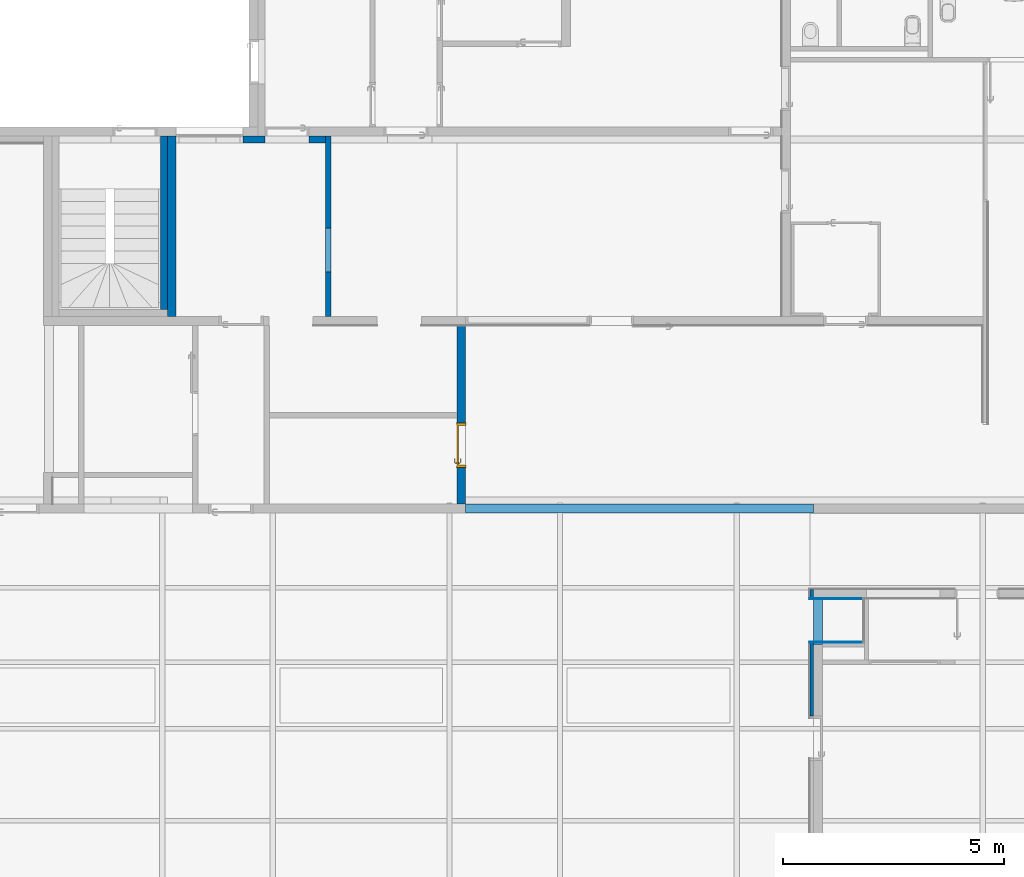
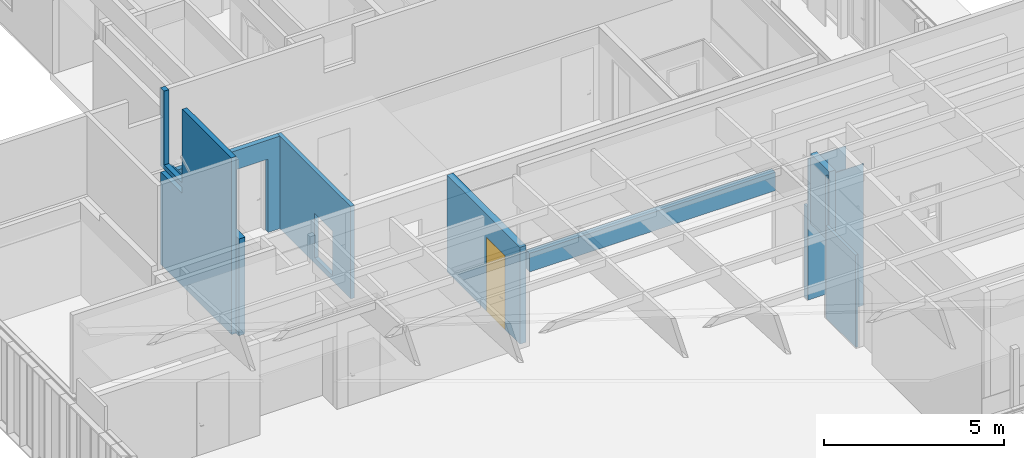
# One storey, part 84 of 240: 11 walls, 1 door, 5 openings.
"""IFC2X3 building model written with IfcOpenShell, lengths in centimetres."""

import ifcopenshell
import ifcopenshell.guid

model = None  # the IFC model being written
_history = None  # IfcOwnerHistory: only IFC2X3 demands one
_inside = {}  # id of a spatial element -> (the spatial element, [elements in it])
_under = {}  # id of a project, library or spatial element -> (it, [spatial elements below it])
_declared = {}  # id of a project -> (the project, [libraries it declares])
_typed = {}  # id of a type object -> (the type object, [elements of that type])
_made_of = {}  # id of a material, layer set ... -> (it, [elements and type objects made of it])


def new_model(schema):
    """Start an empty IFC model of exactly this schema.

    Asked for "IFC4X3", IfcOpenShell would pick the latest addendum, in which some entities
    have other attributes; the version numbers below select the first issue.
    IFC2X3 requires an IfcOwnerHistory on every rooted entity: one is made here for all.
    """
    global model, _history
    if schema == "IFC4X3":
        model = ifcopenshell.file(schema_version=(4, 3, 0, 0))
    else:
        model = ifcopenshell.file(schema=schema)
    _inside.clear()
    _under.clear()
    _declared.clear()
    _typed.clear()
    _made_of.clear()
    _history = None
    if model.schema == "IFC2X3":
        org = make("IfcOrganization", Name="unknown")
        user = make(
            "IfcPersonAndOrganization",
            ThePerson=make("IfcPerson", FamilyName="unknown"),
            TheOrganization=org,
        )
        app = make(
            "IfcApplication",
            ApplicationDeveloper=org,
            Version="unknown",
            ApplicationFullName="unknown",
            ApplicationIdentifier="unknown",
        )
        _history = make(
            "IfcOwnerHistory",
            OwningUser=user,
            OwningApplication=app,
            ChangeAction="ADDED",
            CreationDate=0,
        )
    return model


def make(cls, **values):
    """One entity of the class cls with the attributes given. An attribute that is None is left unset."""
    return model.create_entity(
        cls, **{name: value for name, value in values.items() if value is not None}
    )


def entity(cls, *values):
    """Any entity or typed value of the class cls, its attributes in the order of the schema. None: left unset."""
    e = model.create_entity(cls)
    for i, value in enumerate(values):
        if value is not None:
            e[i] = value
    return e


def rooted(cls, **values):
    """An entity with a GlobalId (a new one), such as an element, a storey or a relation."""
    return make(cls, GlobalId=ifcopenshell.guid.new(), OwnerHistory=_history, **values)


def si_unit(unit_type, name, prefix=None):
    """IfcSIUnit, for example si_unit("LENGTHUNIT", "METRE", prefix="MILLI")."""
    return make("IfcSIUnit", UnitType=unit_type, Prefix=prefix, Name=name)


def converted_unit(unit_type, name, factor, base, dimensions=None, offset=None):
    """IfcConversionBasedUnit, such as the inch: factor (a typed value) times the base unit."""
    return make(
        "IfcConversionBasedUnit"
        if offset is None
        else "IfcConversionBasedUnitWithOffset",
        ConversionOffset=offset,
        Dimensions=None
        if dimensions is None
        else entity("IfcDimensionalExponents", *dimensions),
        UnitType=unit_type,
        Name=name,
        ConversionFactor=make(
            "IfcMeasureWithUnit", ValueComponent=factor, UnitComponent=base
        ),
    )


def derived_unit(unit_type, elements):
    """IfcDerivedUnit: a product of units, each with its exponent."""
    return make(
        "IfcDerivedUnit",
        Elements=[
            make("IfcDerivedUnitElement", Unit=unit, Exponent=power)
            for unit, power in elements
        ],
        UnitType=unit_type,
    )


def assignment(units):
    """IfcUnitAssignment: the units of a project."""
    return None if units is None else make("IfcUnitAssignment", Units=units)


def point(xyz):
    """IfcCartesianPoint."""
    return None if xyz is None else make("IfcCartesianPoint", Coordinates=xyz)


def direction(xyz):
    """IfcDirection."""
    return None if xyz is None else make("IfcDirection", DirectionRatios=xyz)


def frame(location, z_axis=None, x_axis=None):
    """IfcAxis2Placement3D, a coordinate frame: its origin and axes. An axis left out is left unset."""
    return make(
        "IfcAxis2Placement3D",
        Location=point(location),
        Axis=direction(z_axis),
        RefDirection=direction(x_axis),
    )


def frame_2d(location, x_axis=None):
    """IfcAxis2Placement2D, a coordinate frame in the plane: its origin and x axis."""
    return make(
        "IfcAxis2Placement2D", Location=point(location), RefDirection=direction(x_axis)
    )


def origin():
    """The frame at (0, 0, 0) with its axes left unset."""
    return frame((0.0, 0.0, 0.0))


def place(relative_to, where):
    """IfcLocalPlacement: puts the frame where relative to a parent placement (None: the world)."""
    return make(
        "IfcLocalPlacement", PlacementRelTo=relative_to, RelativePlacement=where
    )


def context(
    kind, dimensions, precision=None, world=None, true_north=None, identifier=None
):
    """IfcGeometricRepresentationContext, for example the 3D "Model" context."""
    return make(
        "IfcGeometricRepresentationContext",
        ContextIdentifier=identifier,
        ContextType=kind,
        CoordinateSpaceDimension=dimensions,
        Precision=precision,
        WorldCoordinateSystem=world,
        TrueNorth=true_north,
    )


def subcontext(parent, identifier, kind, view, scale=None):
    """IfcGeometricRepresentationSubContext, for example "Body" below "Model"."""
    return make(
        "IfcGeometricRepresentationSubContext",
        ContextIdentifier=identifier,
        ContextType=kind,
        ParentContext=parent,
        TargetScale=scale,
        TargetView=view,
    )


def project(units=None, contexts=None):
    """IfcProject with its units and contexts."""
    return rooted(
        "IfcProject",
        Name="project",
        RepresentationContexts=contexts,
        UnitsInContext=assignment(units),
    )


def spatial(cls, under=None, at=None, **own):
    """A site, building, storey or space (cls), placed at a placement, below another one or the project."""
    s = rooted(cls, ObjectPlacement=at, **own)
    if under is not None:
        _under.setdefault(under.id(), (under, []))[1].append(s)
    return s


def polyline(points):
    """IfcPolyline through the points."""
    return make("IfcPolyline", Points=[point(p) for p in points])


def profile(cls, at=None, kind="AREA", **sizes):
    """A parametric profile (cls). Its sizes go by their IFC names, for example OverallWidth=200.0."""
    return make(cls, ProfileType=kind, Position=at, **sizes)


def rectangle(**sizes):
    """IfcRectangleProfileDef."""
    return profile("IfcRectangleProfileDef", **sizes)


def extrude(swept, where, along, depth):
    """IfcExtrudedAreaSolid: the profile swept, set in the frame where, extruded along a direction by depth."""
    return make(
        "IfcExtrudedAreaSolid",
        SweptArea=swept,
        Position=where,
        ExtrudedDirection=direction(along),
        Depth=depth,
    )


def clip(a, b, op="DIFFERENCE"):
    """IfcBooleanClippingResult: the solid a cut by the half space b."""
    return make(
        "IfcBooleanClippingResult", Operator=op, FirstOperand=a, SecondOperand=b
    )


def bounded_halfspace(plane, agree, where, boundary):
    """IfcPolygonalBoundedHalfSpace: a half space limited to a polygon's prism."""
    return make(
        "IfcPolygonalBoundedHalfSpace",
        BaseSurface=make("IfcPlane", Position=plane),
        AgreementFlag=agree,
        Position=where,
        PolygonalBoundary=boundary,
    )


def faces_of(points, faces, orient=None, outer=None):
    """IfcFace entities. A face is a list of loops; a loop is a list of indices into points, from 0.

    orient and outer hold one flag for each loop. By default every Orientation is true, the
    first loop of a face is its IfcFaceOuterBound and the others are IfcFaceBound.
    """
    made = []
    for i, loops in enumerate(faces):
        bounds = []
        for j, loop in enumerate(loops):
            is_outer = j == 0 if outer is None else outer[i][j]
            bounds.append(
                make(
                    "IfcFaceOuterBound" if is_outer else "IfcFaceBound",
                    Bound=make("IfcPolyLoop", Polygon=[points[k] for k in loop]),
                    Orientation=True if orient is None else orient[i][j],
                )
            )
        made.append(make("IfcFace", Bounds=bounds))
    return made


def faceted_brep(points, faces, orient=None, outer=None, voids=None):
    """IfcFacetedBrep: a solid bounded by flat faces; with voids (closed shells), ...WithVoids."""
    shared = [point(p) for p in points]
    hull = make("IfcClosedShell", CfsFaces=faces_of(shared, faces, orient, outer))
    if voids is None:
        return make("IfcFacetedBrep", Outer=hull)
    return make(
        "IfcFacetedBrepWithVoids",
        Outer=hull,
        Voids=[
            make(cls, CfsFaces=faces_of(shared, fs, o, b)) for cls, fs, o, b in voids
        ],
    )


def shape(context_of_items, identifier, shape_type, items):
    """IfcShapeRepresentation: the items that make up one representation, for example the "Body"."""
    return make(
        "IfcShapeRepresentation",
        ContextOfItems=context_of_items,
        RepresentationIdentifier=identifier,
        RepresentationType=shape_type,
        Items=items,
    )


def source(mapping_origin, context_of_items, identifier, shape_type, items):
    """IfcRepresentationMap: a shape defined once, which mapped items show again and again."""
    return make(
        "IfcRepresentationMap",
        MappingOrigin=mapping_origin,
        MappedRepresentation=shape(context_of_items, identifier, shape_type, items),
    )


def transform(
    local_origin,
    x_axis=None,
    y_axis=None,
    z_axis=None,
    scale=None,
    scale2=None,
    scale3=None,
    uniform=True,
):
    """IfcCartesianTransformationOperator3D, or its non-uniform kind. x_axis, y_axis, z_axis: its Axis1, 2, 3."""
    if uniform:
        return make(
            "IfcCartesianTransformationOperator3D",
            Axis1=direction(x_axis),
            Axis2=direction(y_axis),
            LocalOrigin=point(local_origin),
            Scale=scale,
            Axis3=direction(z_axis),
        )
    return make(
        "IfcCartesianTransformationOperator3DnonUniform",
        Axis1=direction(x_axis),
        Axis2=direction(y_axis),
        LocalOrigin=point(local_origin),
        Scale=scale,
        Axis3=direction(z_axis),
        Scale2=scale2,
        Scale3=scale3,
    )


def mapped(mapping_source, mapping_target):
    """IfcMappedItem: shows the shape of a source again, moved by a transform."""
    return make(
        "IfcMappedItem", MappingSource=mapping_source, MappingTarget=mapping_target
    )


def material(Name=None, Category=None):
    """IfcMaterial."""
    return make("IfcMaterial", Name=Name, Category=Category)


def material_list(materials):
    """IfcMaterialList."""
    return make("IfcMaterialList", Materials=materials)


def layer(
    of_material, thickness, ventilated=None, Name=None, Category=None, Priority=None
):
    """IfcMaterialLayer: one layer of a wall or slab, of a material (None: an air gap)."""
    return make(
        "IfcMaterialLayer",
        Material=of_material,
        LayerThickness=thickness,
        IsVentilated=ventilated,
        Name=Name,
        Category=Category,
        Priority=Priority,
    )


def layer_set(layers, Name=None):
    """IfcMaterialLayerSet."""
    return make("IfcMaterialLayerSet", MaterialLayers=layers, LayerSetName=Name)


def layer_usage(for_layer_set, set_direction, sense, offset, extent=None):
    """IfcMaterialLayerSetUsage: how a layer set lies in its element."""
    return make(
        "IfcMaterialLayerSetUsage",
        ForLayerSet=for_layer_set,
        LayerSetDirection=set_direction,
        DirectionSense=sense,
        OffsetFromReferenceLine=offset,
        ReferenceExtent=extent,
    )


def made_of(thing, what):
    """Note that an element or type object is made of a material, layer set ...; save() writes the relation."""
    if what is not None:
        _made_of.setdefault(what.id(), (what, []))[1].append(thing)
    return thing


def type_object(cls, material=None, **own):
    """A type object (cls), such as IfcWallType, which elements share."""
    return made_of(rooted(cls, **own), material)


def type_shapes(of_type, sources):
    """Give a type object the sources (RepresentationMaps) that its elements show as mapped items."""
    of_type.RepresentationMaps = sources


def element(
    cls,
    number,
    at=None,
    inside=None,
    cuts=None,
    type_object=None,
    material=None,
    context=None,
    identifier="Body",
    shape_type=None,
    held_by="IfcProductDefinitionShape",
    body=None,
    shapes=None,
    **own,
):
    """One element of the class cls, such as IfcWall. Its Tag is "e" and its number.

    at: its placement. inside: the storey or other place that contains it. cuts: it is an
    opening in that element (IfcRelVoidsElement). A single representation is given by context,
    identifier, shape_type and body (its items); several are given by shapes. held_by: the class
    of the entity that holds the representations. save() writes the other relations.
    """
    e = rooted(cls, Tag="e%d" % number, ObjectPlacement=at, **own)
    if body is not None:
        shapes = [shape(context, identifier, shape_type, body)]
    if shapes is not None:
        e.Representation = make(held_by, Representations=shapes)
    if inside is not None:
        _inside.setdefault(inside.id(), (inside, []))[1].append(e)
    if cuts is not None:
        rooted(
            "IfcRelVoidsElement", RelatingBuildingElement=cuts, RelatedOpeningElement=e
        )
    if type_object is not None:
        _typed.setdefault(type_object.id(), (type_object, []))[1].append(e)
    return made_of(e, material)


def fill(opening, filler):
    """IfcRelFillsElement: the door or window that sits in an opening."""
    return rooted(
        "IfcRelFillsElement",
        RelatingOpeningElement=opening,
        RelatedBuildingElement=filler,
    )


def aggregate(whole, parts):
    """IfcRelAggregates: a whole, such as a stair, and the parts it consists of."""
    return rooted("IfcRelAggregates", RelatingObject=whole, RelatedObjects=parts)


def save(model, path):
    """Write the relations noted so far, then the file.

    IfcRelAggregates (storeys below a building ...), IfcRelContainedInSpatialStructure (elements
    in a storey), IfcRelDefinesByType, IfcRelAssociatesMaterial and IfcRelDeclares: one each for
    every whole, place, type object, material and project.
    """
    for whole, parts in _under.values():
        aggregate(whole, parts)
    for where, things in _inside.values():
        rooted(
            "IfcRelContainedInSpatialStructure",
            RelatedElements=things,
            RelatingStructure=where,
        )
    for kind, things in _typed.values():
        rooted("IfcRelDefinesByType", RelatedObjects=things, RelatingType=kind)
    for what, things in _made_of.values():
        rooted("IfcRelAssociatesMaterial", RelatedObjects=things, RelatingMaterial=what)
    for by, libraries in _declared.values():
        rooted("IfcRelDeclares", RelatingContext=by, RelatedDefinitions=libraries)
    model.write(path)


model = new_model("IFC2X3")

# Units and contexts
model_context = context("Model", 3, precision=0.001, world=origin(), true_north=direction((6.12303176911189e-17, 1.0)))
body_context = subcontext(model_context, "Body", "Model", "MODEL_VIEW")
ifc_project = project(units=[si_unit("LENGTHUNIT", "METRE", prefix="CENTI"), si_unit("AREAUNIT", "SQUARE_METRE"), si_unit("VOLUMEUNIT", "CUBIC_METRE"), converted_unit("PLANEANGLEUNIT", "DEGREE", entity("IfcRatioMeasure", 0.0174532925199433), si_unit("PLANEANGLEUNIT", "RADIAN"), dimensions=[0, 0, 0, 0, 0, 0, 0]), si_unit("MASSUNIT", "GRAM", prefix="KILO"), derived_unit("MASSDENSITYUNIT", [(si_unit("MASSUNIT", "GRAM", prefix="KILO"), 1), (si_unit("LENGTHUNIT", "METRE"), -3)]), si_unit("TIMEUNIT", "SECOND"), si_unit("FREQUENCYUNIT", "HERTZ"), si_unit("THERMODYNAMICTEMPERATUREUNIT", "DEGREE_CELSIUS"), derived_unit("THERMALTRANSMITTANCEUNIT", [(si_unit("MASSUNIT", "GRAM", prefix="KILO"), 1), (si_unit("THERMODYNAMICTEMPERATUREUNIT", "KELVIN"), -1), (si_unit("TIMEUNIT", "SECOND"), -3)]), derived_unit("VOLUMETRICFLOWRATEUNIT", [(si_unit("LENGTHUNIT", "METRE"), 3), (si_unit("TIMEUNIT", "SECOND"), -1)]), si_unit("ELECTRICCURRENTUNIT", "AMPERE"), si_unit("ELECTRICVOLTAGEUNIT", "VOLT"), si_unit("POWERUNIT", "WATT"), si_unit("FORCEUNIT", "NEWTON", prefix="KILO"), si_unit("ILLUMINANCEUNIT", "LUX"), si_unit("LUMINOUSFLUXUNIT", "LUMEN"), si_unit("LUMINOUSINTENSITYUNIT", "CANDELA"), derived_unit("USERDEFINED", [(si_unit("MASSUNIT", "GRAM", prefix="KILO"), -1), (si_unit("LENGTHUNIT", "METRE"), -2), (si_unit("TIMEUNIT", "SECOND"), 3), (si_unit("LUMINOUSFLUXUNIT", "LUMEN"), 1)]), derived_unit("LINEARVELOCITYUNIT", [(si_unit("LENGTHUNIT", "METRE"), 1), (si_unit("TIMEUNIT", "SECOND"), -1)]), si_unit("PRESSUREUNIT", "PASCAL"), derived_unit("USERDEFINED", [(si_unit("LENGTHUNIT", "METRE"), -2), (si_unit("MASSUNIT", "GRAM", prefix="KILO"), 1), (si_unit("TIMEUNIT", "SECOND"), -2)])], contexts=[model_context])

# Site, building, storey
site_placement = place(None, frame((-2781.94577612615, 7442.24238424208, 0.0)))
site = spatial("IfcSite", under=ifc_project, at=site_placement, Name="Default", CompositionType="ELEMENT")
building_placement = place(site_placement, origin())
building = spatial("IfcBuilding", under=site, at=building_placement, CompositionType="ELEMENT")
storey_placement = place(building_placement, origin())
storey = spatial("IfcBuildingStorey", under=building, at=storey_placement, Name="N00 - COO", CompositionType="ELEMENT", Elevation=0.0)

# Wall, openings
ifc_material_1 = material(Name="00 - Isolant")
ifc_layer_1 = layer(ifc_material_1, 14.0)
ifc_material_2 = material(Name="01 - Enduit/Plâtre")
ifc_layer_2 = layer(ifc_material_2, 1.3)
ifc_layer_set_1 = layer_set([ifc_layer_1, ifc_layer_2], Name="Mur de base:04 - Parement -  isolant 14 cm + BA13")
ifc_layer_usage_1 = layer_usage(ifc_layer_set_1, "AXIS2", "NEGATIVE", 7.65)
wall_type_1 = type_object("IfcWallType", Name="Mur de base:04 - Parement -  isolant 14 cm + BA13", PredefinedType="STANDARD", material=ifc_layer_set_1)
wall_1_placement = place(building_placement, frame((-11066.882807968, -3380.17180651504, 0.0)))
wall_1 = element("IfcWallStandardCase", 1, at=wall_1_placement, inside=storey, type_object=wall_type_1, material=ifc_layer_usage_1, Name="Mur de base:04 - Parement -  isolant 14 cm + BA13", ObjectType="Mur de base:04 - Parement -  isolant 14 cm + BA13", context=body_context, shape_type="SweptSolid", body=[
    extrude(rectangle(XDim=337.8828109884, YDim=15.3, at=frame_2d((168.9414054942, 1.09245945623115e-13), x_axis=(-1.0, 0.0))), origin(), (0.0, 0.0, 1.0), 313.000000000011),
])
opening_1_placement = place(wall_1_placement, origin())
element("IfcOpeningElement", 2, at=opening_1_placement, cuts=wall_1, Name="Mur de base:04 - Parement -  isolant 14 cm + BA13", ObjectType="Opening", context=body_context, shape_type="SweptSolid", body=[
    extrude(rectangle(XDim=250.0, YDim=151.269760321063, at=frame_2d((0.0, -8.66862137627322e-13), x_axis=(1.0, 0.0))), frame((75.6348801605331, -22.8900000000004, 125.0), z_axis=(0.0, 1.0, 0.0), x_axis=(0.0, 0.0, 1.0)), (0.0, 0.0, 1.0), 45.78),
])
opening_2_placement = place(wall_1_placement, origin())
element("IfcOpeningElement", 3, at=opening_2_placement, cuts=wall_1, Name="Mur de base:04 - Parement -  isolant 14 cm + BA13", ObjectType="Opening", context=body_context, shape_type="SweptSolid", body=[
    extrude(rectangle(XDim=248.500000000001, YDim=99.9999999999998, at=frame_2d((0.0, -8.66862137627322e-13), x_axis=(1.0, 0.0))), frame((250.569760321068, -124.75, 124.250000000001), z_axis=(0.0, 1.0, 0.0), x_axis=(0.0, 0.0, 1.0)), (0.0, 0.0, 1.0), 304.8),
])

# Wall
ifc_material_3 = material(Name="01 - Maçonnerie")
ifc_layer_3 = layer(ifc_material_3, 20.0)
ifc_layer_set_2 = layer_set([ifc_layer_3], Name="Mur de base:04 - Structure - béton - 20cm")
ifc_layer_usage_2 = layer_usage(ifc_layer_set_2, "AXIS2", "NEGATIVE", 10.0)
wall_type_2 = type_object("IfcWallType", Name="Mur de base:04 - Structure - béton - 20cm", PredefinedType="STANDARD", material=ifc_layer_set_2)
wall_2_placement = place(building_placement, frame((-11076.882807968, -3372.52180651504, 0.0), z_axis=(0.0, 0.0, 1.0), x_axis=(0.0, -1.0, 0.0)))
element("IfcWallStandardCase", 4, at=wall_2_placement, inside=storey, type_object=wall_type_2, material=ifc_layer_usage_2, Name="Mur de base:04 - Structure - béton - 20cm", ObjectType="Mur de base:04 - Structure - béton - 20cm", context=body_context, shape_type="Clipping", body=[
    clip(extrude(rectangle(XDim=408.197854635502, YDim=19.9999999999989, at=frame_2d((204.098927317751, 0.0), x_axis=(-1.0, 0.0))), origin(), (0.0, 0.0, 1.0), 328.0), bounded_halfspace(frame((408.197854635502, 10.0, 328.0), z_axis=(0.0, 0.0, -1.0), x_axis=(0.0, -1.0, 0.0)), True, frame((408.197854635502, 10.0, 328.0), z_axis=(0.0, 0.0, -1.0), x_axis=(0.0, -1.0, 0.0)), polyline([(0.0, 0.0), (20.0, 0.0), (20.0, 288.300000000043), (20.0, 408.197854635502), (0.0, 408.197854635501), (0.0, 0.0)]))),
])

# Wall, opening, door
ifc_layer_usage_3 = layer_usage(ifc_layer_set_2, "AXIS2", "NEGATIVE", 10.0)
wall_3_placement = place(building_placement, frame((-10421.9647381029, -3800.71966115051, 0.0), z_axis=(0.0, 0.0, 1.0), x_axis=(0.0, -1.0, 0.0)))
wall_3 = element("IfcWallStandardCase", 5, at=wall_3_placement, inside=storey, type_object=wall_type_2, material=ifc_layer_usage_3, Name="Mur de base:04 - Structure - béton - 20cm", ObjectType="Mur de base:04 - Structure - béton - 20cm", context=body_context, shape_type="SweptSolid", body=[
    extrude(rectangle(XDim=404.780612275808, YDim=19.9999999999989, at=frame_2d((202.390306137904, 0.0), x_axis=(-1.0, 0.0))), origin(), (0.0, 0.0, 1.0), 328.0),
])
opening_3_placement = place(wall_3_placement, frame((321.359372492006, 10.0, 0.0)))
opening_3 = element("IfcOpeningElement", 6, at=opening_3_placement, cuts=wall_3, Name="Int. Simple:PP (0.93m x 2.50m):1", ObjectType="Opening", context=body_context, shape_type="SweptSolid", body=[
    extrude(rectangle(XDim=248.500000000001, YDim=99.9999999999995, at=frame_2d((124.250000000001, 49.9999999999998), x_axis=(1.0, 0.0))), frame((0.0, 0.0, 0.0), z_axis=(0.0, -1.0, 0.0), x_axis=(0.0, 0.0, 1.0)), (0.0, 0.0, 1.0), 20.0),
])
ifc_material_4 = material(Name="Finition Peinture - Blanc satiné")
ifc_material_5 = material(Name="Bois - Panneau de porte")
ifc_material_6 = material(Name="Bois - Cadre de porte")
ifc_material_list_1 = material_list([ifc_material_4, ifc_material_5, ifc_material_6])
ifc_material_list_2 = material_list([ifc_material_4, ifc_material_5, ifc_material_6])
door_style = type_object("IfcDoorStyle", Name="PP (0.93m x 2.50m)", ConstructionType="NOTDEFINED", OperationType="SINGLE_SWING_RIGHT", ParameterTakesPrecedence=False, Sizeable=False, material=ifc_material_list_2)
shared_shape = source(origin(), body_context, "Body", "Brep", [
    faceted_brep([(99.5000000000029, -0.500000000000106, 87.0), (99.5000000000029, -0.500000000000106, 108.0), (98.535276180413, -0.500000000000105, 108.399601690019), (97.5000000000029, -0.500000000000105, 108.535898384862), (96.4647238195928, -0.500000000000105, 108.399601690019), (95.500000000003, -0.500000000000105, 108.0), (95.5000000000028, -0.500000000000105, 87.0), (96.4647238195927, -0.500000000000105, 86.6003983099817), (97.5000000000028, -0.500000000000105, 86.464101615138), (98.5352761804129, -0.500000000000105, 86.6003983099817), (99.5000000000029, 0.0, 108.0), (99.5000000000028, 0.0, 87.0), (98.5352761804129, 0.0, 86.6003983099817), (97.5000000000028, 0.0, 86.464101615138), (96.4647238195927, 0.0, 86.6003983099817), (95.5000000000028, 0.0, 87.0), (95.5000000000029, 0.0, 108.0), (96.4647238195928, 0.0, 108.399601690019), (97.5000000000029, 0.0, 108.535898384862), (98.535276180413, 0.0, 108.399601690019)], [[[0, 1, 2, 3, 4, 5, 6, 7, 8, 9]], [[10, 11, 12, 13, 14, 15, 16, 17, 18, 19]], [[9, 12, 11, 0]], [[8, 13, 12, 9]], [[7, 14, 13, 8]], [[7, 6, 15, 14]], [[15, 6, 5, 16]], [[4, 17, 16, 5]], [[3, 18, 17, 4]], [[2, 19, 18, 3]], [[2, 1, 10, 19]], [[11, 10, 1, 0]]]),
    faceted_brep([(99.5000000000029, 4.0, 87.0), (99.5000000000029, 4.0, 108.0), (98.535276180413, 4.0, 108.399601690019), (97.5000000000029, 4.0, 108.535898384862), (96.4647238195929, 4.0, 108.399601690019), (95.500000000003, 4.0, 108.0), (95.5000000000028, 4.0, 87.0), (96.4647238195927, 4.0, 86.6003983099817), (97.5000000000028, 4.0, 86.464101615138), (98.5352761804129, 4.0, 86.6003983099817), (97.5000000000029, 4.49999999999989, 108.535898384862), (98.535276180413, 4.49999999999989, 108.399601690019), (99.5000000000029, 4.49999999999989, 108.0), (99.5000000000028, 4.49999999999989, 87.0), (98.5352761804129, 4.49999999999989, 86.6003983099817), (97.5000000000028, 4.49999999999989, 86.464101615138), (96.4647238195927, 4.49999999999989, 86.6003983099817), (95.5000000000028, 4.49999999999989, 87.0), (95.500000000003, 4.49999999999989, 108.0), (96.4647238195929, 4.49999999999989, 108.399601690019)], [[[0, 1, 2, 3, 4, 5, 6, 7, 8, 9]], [[10, 11, 12, 13, 14, 15, 16, 17, 18, 19]], [[4, 19, 18, 5]], [[3, 10, 19, 4]], [[2, 11, 10, 3]], [[2, 1, 12, 11]], [[13, 12, 1, 0]], [[9, 14, 13, 0]], [[8, 15, 14, 9]], [[7, 16, 15, 8]], [[7, 6, 17, 16]], [[17, 6, 5, 18]]]),
    faceted_brep([(97.2974701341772, -0.500000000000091, 100.778044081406), (97.7025298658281, -0.500000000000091, 100.778044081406), (98.1000000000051, -0.500000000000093, 100.699999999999), (98.100000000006, -0.500000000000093, 99.2999999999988), (97.7025298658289, -0.500000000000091, 99.221955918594), (97.297470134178, -0.500000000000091, 99.2219559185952), (96.9000000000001, -0.500000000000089, 99.3000000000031), (96.9000000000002, -0.500000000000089, 100.7), (97.7025298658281, -3.10045754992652, 100.778044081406), (98.1000000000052, -3.26509507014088, 100.7), (97.2974701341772, -2.93267631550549, 100.778044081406), (95.9298602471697, -4.30028620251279, 100.778044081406), (96.0976414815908, -4.70534593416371, 100.778044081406), (96.9000000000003, -2.76803879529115, 100.7), (96.9000000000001, -2.76803879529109, 99.3000000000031), (97.297470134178, -2.93267631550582, 99.2219559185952), (97.7025298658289, -3.10045754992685, 99.221955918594), (96.0976414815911, -4.70534593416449, 99.221955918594), (95.9298602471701, -4.30028620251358, 99.2219559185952), (98.100000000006, -3.26509507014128, 99.2999999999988), (96.2622790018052, -5.1028160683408, 100.7), (95.7652227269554, -3.90281606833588, 100.7), (95.7652227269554, -3.90281606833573, 99.3000000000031), (96.2622790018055, -5.10281606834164, 99.2999999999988), (87.4981359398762, -5.10281606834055, 100.7), (87.4981359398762, -4.70534593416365, 100.778044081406), (87.4981359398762, -4.30028620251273, 100.778044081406), (87.4981359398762, -3.90281606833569, 100.699999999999), (87.4981359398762, -3.90281606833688, 99.3000000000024), (87.4981359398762, -4.30028620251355, 99.2219559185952), (87.4981359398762, -4.70534593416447, 99.221955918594), (87.4981359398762, -5.10281606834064, 99.2999999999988), (91.7139980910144, -4.5028160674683, 100.78786867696), (92.2692302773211, -5.1028160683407, 100.7), (91.6316793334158, -3.9028160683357, 100.7), (91.631679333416, -3.90281606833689, 99.3000000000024), (91.7139981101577, -4.50281607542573, 99.2121313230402), (92.2692310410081, -5.10281606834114, 99.2999999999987)], [[[0, 1, 2, 3, 4, 5, 6, 7]], [[2, 1, 8, 9]], [[1, 0, 10, 11, 12, 8]], [[0, 7, 13, 10]], [[14, 13, 7, 6]], [[5, 15, 14, 6]], [[5, 4, 16, 17, 18, 15]], [[3, 19, 16, 4]], [[9, 19, 3, 2]], [[9, 8, 12, 20]], [[10, 13, 21, 11]], [[22, 21, 13, 14]], [[14, 15, 18, 22]], [[16, 19, 23, 17]], [[20, 23, 19, 9]], [[24, 25, 26, 27, 28, 29, 30, 31]], [[32, 25, 33]], [[33, 25, 24]], [[33, 20, 12]], [[11, 34, 32]], [[34, 11, 21]], [[27, 26, 34]], [[32, 26, 25]], [[32, 34, 26]], [[32, 33, 12]], [[11, 32, 12]], [[21, 22, 35, 28, 27, 34]], [[36, 29, 35]], [[30, 36, 37]], [[18, 35, 22]], [[29, 28, 35]], [[30, 37, 31]], [[37, 17, 23]], [[36, 17, 37]], [[36, 18, 17]], [[36, 35, 18]], [[29, 36, 30]], [[23, 20, 33, 24, 31, 37]]]),
    faceted_brep([(97.2974701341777, 4.49999999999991, 99.2219559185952), (97.7025298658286, 4.49999999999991, 99.221955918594), (98.1000000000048, 4.4999999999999, 99.2999999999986), (98.1000000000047, 4.4999999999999, 100.7), (97.7025298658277, 4.49999999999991, 100.778044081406), (97.2974701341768, 4.49999999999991, 100.778044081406), (96.8999999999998, 4.49999999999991, 100.7), (96.900000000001, 4.49999999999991, 99.3000000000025), (96.8999999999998, 6.7485204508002, 100.7), (96.8999999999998, 6.74852045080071, 99.3000000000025), (97.2974701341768, 6.91315797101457, 100.778044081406), (97.7025298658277, 7.0809392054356, 100.778044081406), (96.0838906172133, 8.69957845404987, 100.778044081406), (95.9161093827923, 8.29451872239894, 100.778044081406), (98.1000000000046, 7.24557672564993, 100.7), (98.1000000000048, 7.24557672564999, 99.2999999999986), (97.7025298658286, 7.08093920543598, 99.221955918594), (97.2974701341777, 6.91315797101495, 99.2219559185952), (95.9161093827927, 8.29451872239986, 99.2219559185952), (96.0838906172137, 8.69957845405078, 99.221955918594), (95.751471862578, 7.89704858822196, 100.7), (95.7514718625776, 7.89704858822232, 99.3000000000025), (96.2485281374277, 9.09704858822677, 100.7), (96.2485281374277, 9.09704858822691, 99.2999999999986), (87.4954216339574, 8.29451872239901, 100.778044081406), (87.4954216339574, 8.69957845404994, 100.778044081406), (87.4954216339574, 9.09704858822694, 100.7), (87.4954216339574, 9.09704858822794, 99.2999999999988), (87.4954216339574, 8.6995784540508, 99.221955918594), (87.4954216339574, 8.29451872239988, 99.2219559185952), (87.4954216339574, 7.89704858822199, 99.3000000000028), (87.4954216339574, 7.89704858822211, 100.7), (91.6234467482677, 7.89704858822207, 100.7), (91.6234479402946, 7.89704858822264, 99.3000000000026), (91.7057655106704, 8.49704858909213, 100.78786867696), (92.255479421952, 9.09704858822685, 100.7), (92.2554795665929, 9.09704858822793, 99.2999999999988), (91.7057654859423, 8.49704858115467, 99.2121313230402)], [[[0, 1, 2, 3, 4, 5, 6, 7]], [[8, 9, 7, 6]], [[5, 10, 8, 6]], [[5, 4, 11, 12, 13, 10]], [[3, 14, 11, 4]], [[14, 3, 2, 15]], [[2, 1, 16, 15]], [[1, 0, 17, 18, 19, 16]], [[0, 7, 9, 17]], [[20, 21, 9, 8]], [[8, 10, 13, 20]], [[14, 22, 12, 11]], [[23, 22, 14, 15]], [[15, 16, 19, 23]], [[17, 9, 21, 18]], [[24, 25, 26, 27, 28, 29, 30, 31]], [[21, 20, 32, 31, 30, 33]], [[34, 24, 32]], [[25, 34, 35]], [[13, 32, 20]], [[24, 31, 32]], [[25, 35, 26]], [[35, 12, 22]], [[34, 12, 35]], [[34, 13, 12]], [[34, 32, 13]], [[24, 34, 25]], [[22, 23, 36, 27, 26, 35]], [[37, 28, 36]], [[36, 28, 27]], [[36, 23, 19]], [[18, 33, 37]], [[33, 18, 21]], [[30, 29, 33]], [[37, 29, 28]], [[37, 33, 29]], [[37, 36, 19]], [[18, 37, 19]]]),
    faceted_brep([(103.500000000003, 4.0, 245.0), (103.500000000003, 4.0, 0.0), (10.5000000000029, 4.0, 0.0), (10.5000000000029, 4.0, 245.0), (103.500000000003, 0.0, 245.0), (10.5000000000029, 0.0, 245.0), (10.5000000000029, 0.0, 0.0), (103.500000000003, 0.0, 0.0)], [[[0, 1, 2, 3]], [[4, 5, 6, 7]], [[3, 5, 4, 0]], [[2, 6, 5, 3]], [[1, 7, 6, 2]], [[0, 4, 7, 1]]]),
    faceted_brep([(107.0, 20.0, 0.0), (107.0, 0.0, 0.0), (108.500000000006, 0.0, 0.0), (108.500000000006, -0.500000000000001, 0.0), (103.500000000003, -0.500000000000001, 0.0), (103.500000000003, 4.0, 0.0), (102.0, 4.0, 0.0), (102.0, 20.5000000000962, 0.0), (108.500000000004, 20.5000000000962, 0.0), (108.500000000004, 20.0, 0.0), (108.500000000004, 20.0, 250.0), (5.50000000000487, 20.0, 250.0), (5.50000000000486, 20.0, 0.0), (7.0, 20.0, 0.0), (7.0, 20.0, 248.500000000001), (107.0, 20.0, 248.500000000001), (108.500000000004, 20.5000000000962, 250.0), (102.0, 20.5000000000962, 243.5), (12.0, 20.5000000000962, 243.5), (12.0, 20.5000000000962, 0.0), (5.50000000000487, 20.5000000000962, 0.0), (5.50000000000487, 20.5000000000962, 250.0), (102.0, 4.0, 243.5), (103.500000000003, 4.0, 245.0), (10.5000000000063, 4.0, 245.0), (10.5000000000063, 4.0, 0.0), (12.0, 4.0, 0.0), (12.0, 4.0, 243.5), (103.500000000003, -0.500000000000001, 245.0), (108.500000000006, -0.500000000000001, 250.0), (5.5000000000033, -0.500000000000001, 250.0), (5.50000000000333, -0.500000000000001, 0.0), (10.5000000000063, -0.500000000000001, 0.0), (10.5000000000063, -0.500000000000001, 245.0), (108.500000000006, 0.0, 250.0), (107.0, 0.0, 248.500000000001), (7.0, 0.0, 248.500000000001), (7.0, 0.0, 0.0), (5.5000000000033, 0.0, 0.0), (5.50000000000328, 0.0, 250.0)], [[[0, 1, 2, 3, 4, 5, 6, 7, 8, 9]], [[9, 10, 11, 12, 13, 14, 15, 0]], [[8, 16, 10, 9]], [[7, 17, 18, 19, 20, 21, 16, 8]], [[7, 6, 22, 17]], [[5, 23, 24, 25, 26, 27, 22, 6]], [[5, 4, 28, 23]], [[3, 29, 30, 31, 32, 33, 28, 4]], [[2, 34, 29, 3]], [[1, 35, 36, 37, 38, 39, 34, 2]], [[0, 15, 35, 1]], [[14, 13, 37, 36]], [[13, 12, 20, 19, 26, 25, 32, 31, 38, 37]], [[21, 20, 12, 11]], [[27, 26, 19, 18]], [[33, 32, 25, 24]], [[39, 38, 31, 30]], [[16, 21, 11, 10]], [[22, 27, 18, 17]], [[28, 33, 24, 23]], [[34, 39, 30, 29]], [[15, 14, 36, 35]]]),
])
type_shapes(door_style, [shared_shape])
door_placement = place(opening_3_placement, frame((-107.0, -20.0, 0.0)))
door = element("IfcDoor", 7, at=door_placement, inside=storey, type_object=door_style, material=ifc_material_list_1, Name="Int. Simple:PP (0.93m x 2.50m)", ObjectType="Int. Simple:PP (0.93m x 2.50m)", OverallHeight=248.500000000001, OverallWidth=99.9999999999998, context=body_context, shape_type="MappedRepresentation", body=[
    mapped(shared_shape, transform((0.0, 0.0, 0.0), scale=1.0)),
])
fill(opening_3, door)

# Walls
ifc_layer_usage_4 = layer_usage(ifc_layer_set_2, "AXIS2", "NEGATIVE", 10.0)
wall_4_placement = place(building_placement, frame((-10411.9647381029, -4215.50027342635, 250.0)))
element("IfcWallStandardCase", 8, at=wall_4_placement, inside=storey, type_object=wall_type_2, material=ifc_layer_usage_4, Name="Mur de base:04 - Structure - béton - 20cm", ObjectType="Mur de base:04 - Structure - béton - 20cm", context=body_context, shape_type="SweptSolid", body=[
    extrude(rectangle(XDim=786.977357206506, YDim=20.0000000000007, at=frame_2d((393.488678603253, -7.99360577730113e-15), x_axis=(-1.0, 0.0))), origin(), (0.0, 0.0, 1.0), 63.0000000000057),
])
ifc_layer_usage_5 = layer_usage(ifc_layer_set_2, "AXIS2", "NEGATIVE", 10.0)
wall_5_placement = place(building_placement, frame((-9614.98738089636, -4523.50027342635, 257.0), z_axis=(0.0, 0.0, 1.0), x_axis=(0.0, 1.0, 0.0)))
element("IfcWallStandardCase", 9, at=wall_5_placement, inside=storey, type_object=wall_type_2, material=ifc_layer_usage_5, Name="Mur de base:04 - Structure - béton - 20cm", ObjectType="Mur de base:04 - Structure - béton - 20cm", context=body_context, shape_type="SweptSolid", body=[
    extrude(rectangle(XDim=102.999999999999, YDim=19.9999999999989, at=frame_2d((51.4999999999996, 0.0), x_axis=(-1.0, 0.0))), origin(), (0.0, 0.0, 1.0), 237.0),
])

# Wall, opening
ifc_layer_4 = layer(ifc_material_2, 1.0)
ifc_material_7 = material(Name="Maçonnerie - Béton")
ifc_layer_5 = layer(ifc_material_7, 10.0)
ifc_layer_6 = layer(ifc_material_2, 1.0)
ifc_layer_set_3 = layer_set([ifc_layer_4, ifc_layer_5, ifc_layer_6], Name="Mur de base:06 - cloisons - agglos10 + faïence 12cm")
ifc_layer_usage_6 = layer_usage(ifc_layer_set_3, "AXIS2", "NEGATIVE", 6.0)
wall_type_3 = type_object("IfcWallType", Name="Mur de base:06 - cloisons - agglos10 + faïence 12cm", PredefinedType="STANDARD", material=ifc_layer_set_3)
wall_6_placement = place(building_placement, frame((-10723.0, -3372.52180651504, 0.0), z_axis=(0.0, 0.0, 1.0), x_axis=(0.0, -1.0, 0.0)))
wall_6 = element("IfcWallStandardCase", 10, at=wall_6_placement, inside=storey, type_object=wall_type_3, material=ifc_layer_usage_6, Name="Mur de base:06 - cloisons - agglos10 + faïence 12cm", ObjectType="Mur de base:06 - cloisons - agglos10 + faïence 12cm", context=body_context, shape_type="SweptSolid", body=[
    extrude(rectangle(XDim=408.19785463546, YDim=12.0000000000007, at=frame_2d((204.09892731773, 0.0), x_axis=(-1.0, 0.0))), origin(), (0.0, 0.0, 1.0), 313.000000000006),
])
opening_4_placement = place(wall_6_placement, origin())
element("IfcOpeningElement", 11, at=opening_4_placement, cuts=wall_6, Name="Mur de base:06 - cloisons - agglos10 + faïence 12cm", ObjectType="Opening", context=body_context, shape_type="SweptSolid", body=[
    extrude(rectangle(XDim=150.0, YDim=100.0, at=frame_2d((0.0, -2.16715534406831e-13), x_axis=(1.0, 0.0))), frame((258.19785463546, -6.0, 93.08), z_axis=(0.0, 1.0, 0.0), x_axis=(0.0, 0.0, -1.0)), (0.0, 0.0, 1.0), 12.0000000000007),
])

ifc_layer_7 = layer(ifc_material_2, 1.3)
ifc_layer_8 = layer(ifc_material_1, 14.0)
ifc_layer_set_4 = layer_set([ifc_layer_7, ifc_layer_8], Name="Mur de base:04 - Parement - ITI 14cm")
ifc_layer_usage_7 = layer_usage(ifc_layer_set_4, "AXIS2", "NEGATIVE", 7.65)
wall_type_4 = type_object("IfcWallType", Name="Mur de base:04 - Parement - ITI 14cm", PredefinedType="STANDARD", material=ifc_layer_set_4)
wall_7_placement = place(building_placement, frame((-11094.532807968, -3765.4196611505, 0.0), z_axis=(0.0, 0.0, 1.0), x_axis=(0.0, 1.0, 0.0)))
wall_7 = element("IfcWallStandardCase", 12, at=wall_7_placement, inside=storey, type_object=wall_type_4, material=ifc_layer_usage_7, Name="Mur de base:04 - Parement - ITI 14cm", ObjectType="Mur de base:04 - Parement - ITI 14cm", context=body_context, shape_type="Clipping", body=[
    clip(extrude(rectangle(XDim=392.89785463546, YDim=15.3000000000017, at=frame_2d((196.44892731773, 0.0), x_axis=(-1.0, 0.0))), origin(), (0.0, 0.0, 1.0), 599.0), bounded_halfspace(frame((273.0, -7.64999999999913, 313.0), z_axis=(-1.0, 0.0, 0.0), x_axis=(0.0, 0.0, 1.0)), True, frame((273.0, -7.64999999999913, 313.0), z_axis=(-1.0, 0.0, 0.0), x_axis=(0.0, 0.0, 1.0)), polyline([(0.0, 0.0), (21.0, 0.0), (21.0, 15.3), (0.0, 15.3), (0.0, 0.0)]))),
])
opening_5_placement = place(wall_7_placement, origin())
element("IfcOpeningElement", 13, at=opening_5_placement, cuts=wall_7, Name="Mur de base:04 - Parement - ITI 14cm", ObjectType="Opening", context=body_context, shape_type="SweptSolid", body=[
    extrude(rectangle(XDim=250.000000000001, YDim=99.9999999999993, at=frame_2d((2.16715534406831e-13, 2.8421709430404e-14), x_axis=(0.0, 1.0))), frame((322.897854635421, -180.049999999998, 474.0), z_axis=(0.0, 1.0, 0.0), x_axis=(-1.0, 0.0, 0.0)), (0.0, 0.0, 1.0), 304.8),
])

# Walls
ifc_material_8 = material(Name="CP bouleau perforé")
ifc_layer_9 = layer(ifc_material_8, 2.0)
ifc_layer_set_5 = layer_set([ifc_layer_9], Name="Mur de base:06 - habillage bois collée 2cm perforé")
ifc_layer_usage_8 = layer_usage(ifc_layer_set_5, "AXIS2", "NEGATIVE", 1.0)
wall_type_5 = type_object("IfcWallType", Name="Mur de base:06 - habillage bois collée 2cm perforé", PredefinedType="STANDARD", material=ifc_layer_set_5)
wall_8_placement = place(building_placement, frame((-9632.98738089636, -4517.50027342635, 0.0)))
element("IfcWallStandardCase", 14, at=wall_8_placement, inside=storey, type_object=wall_type_5, material=ifc_layer_usage_8, Name="Mur de base:06 - habillage bois collée 2cm perforé", ObjectType="Mur de base:06 - habillage bois collée 2cm perforé", context=body_context, shape_type="SweptSolid", body=[
    extrude(rectangle(XDim=121.0, YDim=1.99999999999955, at=frame_2d((60.5000000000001, 0.0), x_axis=(-1.0, 0.0))), origin(), (0.0, 0.0, 1.0), 480.0),
])
ifc_layer_usage_9 = layer_usage(ifc_layer_set_5, "AXIS2", "NEGATIVE", 1.0)
wall_9_placement = place(storey_placement, frame((-9632.98738089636, -4419.50027342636, 0.0)))
element("IfcWallStandardCase", 15, at=wall_9_placement, inside=storey, type_object=wall_type_5, material=ifc_layer_usage_9, Name="Mur de base:06 - habillage bois collée 2cm perforé", ObjectType="Mur de base:06 - habillage bois collée 2cm perforé", context=body_context, shape_type="SweptSolid", body=[
    extrude(rectangle(XDim=121.0, YDim=1.99999999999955, at=frame_2d((60.5000000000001, 0.0), x_axis=(-1.0, 0.0))), origin(), (0.0, 0.0, 1.0), 480.0),
])
ifc_layer_10 = layer(ifc_material_1, 8.0)
ifc_layer_set_6 = layer_set([ifc_layer_10], Name="Mur de base:04 - Parement - Isolant acoustique 8cm")
ifc_layer_usage_10 = layer_usage(ifc_layer_set_6, "AXIS2", "NEGATIVE", 4.0)
wall_type_6 = type_object("IfcWallType", Name="Mur de base:04 - Parement - Isolant acoustique 8cm", PredefinedType="STANDARD", material=ifc_layer_set_6)
wall_10_placement = place(building_placement, frame((-9628.98738089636, -4684.96250688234, 0.0), z_axis=(0.0, 0.0, 1.0), x_axis=(0.0, 1.0, 0.0)))
element("IfcWallStandardCase", 16, at=wall_10_placement, inside=storey, type_object=wall_type_6, material=ifc_layer_usage_10, Name="Mur de base:04 - Parement - Isolant acoustique 8cm", ObjectType="Mur de base:04 - Parement - Isolant acoustique 8cm", context=body_context, shape_type="SweptSolid", body=[
    extrude(rectangle(XDim=165.175916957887, YDim=8.00000000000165, at=frame_2d((82.5879584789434, 0.0), x_axis=(-1.0, 0.0))), origin(), (0.0, 0.0, 1.0), 313.0),
])
ifc_layer_usage_11 = layer_usage(ifc_layer_set_6, "AXIS2", "NEGATIVE", 4.0)
wall_11_placement = place(building_placement, frame((-9628.98738089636, -4417.79417339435, 0.0), z_axis=(0.0, 0.0, 1.0), x_axis=(0.0, 1.0, 0.0)))
element("IfcWallStandardCase", 17, at=wall_11_placement, inside=storey, type_object=wall_type_6, material=ifc_layer_usage_11, Name="Mur de base:04 - Parement - Isolant acoustique 8cm", ObjectType="Mur de base:04 - Parement - Isolant acoustique 8cm", context=body_context, shape_type="SweptSolid", body=[
    extrude(rectangle(XDim=19.0, YDim=8.00000000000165, at=frame_2d((9.50000000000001, 0.0), x_axis=(-1.0, 0.0))), origin(), (0.0, 0.0, 1.0), 313.0),
])

save(model, "model.ifc")
